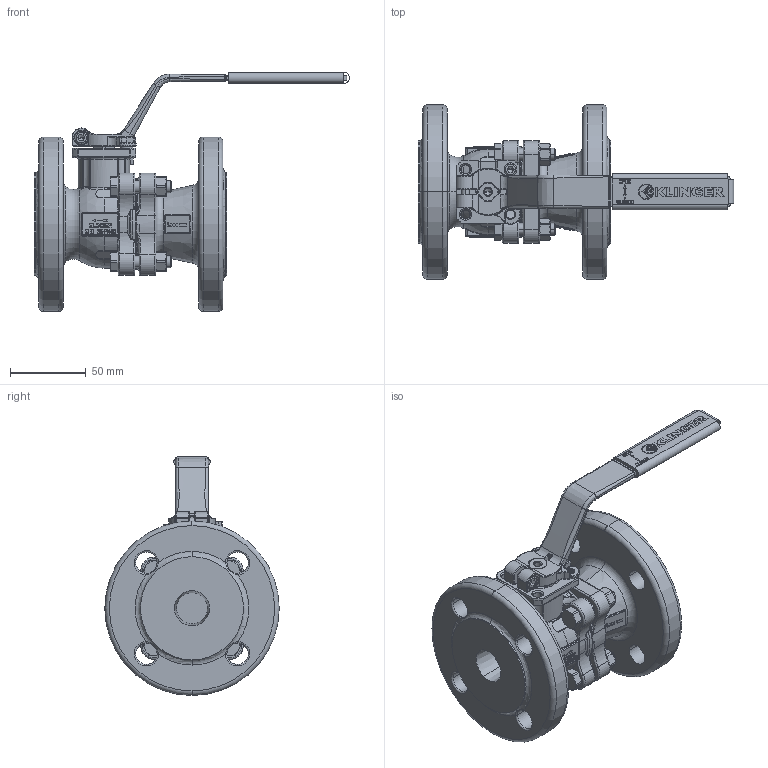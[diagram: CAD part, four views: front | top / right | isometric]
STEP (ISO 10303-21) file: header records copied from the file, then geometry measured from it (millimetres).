
FILE_DESCRIPTION((''),'2;1');
FILE_NAME('KHEFK025VFK025P040XKK','2016-02-16T',('santag'),('RAND'),'PRO/ENGINEER BY PARAMETRIC TECHNOLOGY CORPORATION, 2013410','PRO/ENGINEER BY PARAMETRIC TECHNOLOGY CORPORATION, 2013410','');
FILE_SCHEMA(('CONFIG_CONTROL_DESIGN'));
Products named in the file (1): KHEFK025VFK025P040XKK
Bounding box: 207.95 x 115 x 157.55 mm (x, y, z)
Volume: 606149.1 mm3; surface area: 105279.8 mm2
Topology: 1 solids, 1 shells, 2870 faces, 7438 edges, 4658 vertices
Faces by surface type: plane 1643, cylinder 430, bspline 330, torus 254, cone 175, sphere 38
Entity records: 120535 total; most frequent: CARTESIAN_POINT 52464, ORIENTED_EDGE 14848, DIRECTION 13199, EDGE_CURVE 7424, VECTOR 4781, LINE 4781, VERTEX_POINT 4658, AXIS2_PLACEMENT_3D 4209
